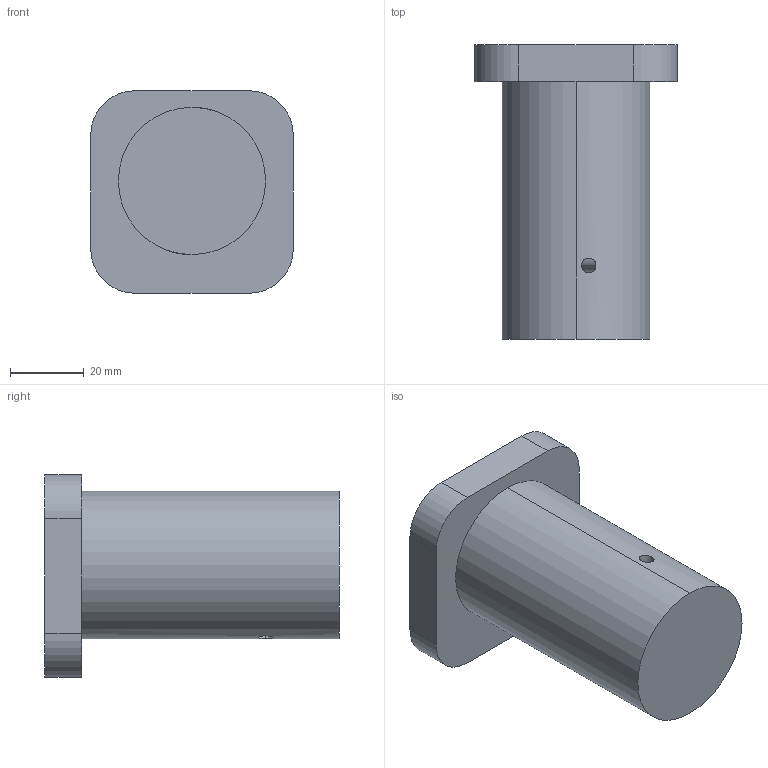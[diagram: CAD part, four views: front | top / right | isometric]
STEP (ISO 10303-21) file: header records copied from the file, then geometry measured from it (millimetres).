
FILE_DESCRIPTION (( 'STEP AP214' ), '1' );
FILE_NAME ('22.STEP', '2023-05-04T08:11:48', ( 'ay' ), ( '' ), 'SwSTEP 2.0', 'SolidWorks 2020', '' );
FILE_SCHEMA (( 'AUTOMOTIVE_DESIGN' ));
Length unit declared in the file: millimetre
Products named in the file (1): 22
Bounding box: 55 x 80 x 55 mm (x, y, z)
Volume: 116476.5 mm3; surface area: 17069.5 mm2
Topology: 1 solids, 1 shells, 15 faces, 36 edges, 24 vertices
Faces by surface type: cylinder 8, plane 7
Entity records: 580 total; most frequent: CARTESIAN_POINT 184, DIRECTION 76, ORIENTED_EDGE 72, EDGE_CURVE 36, AXIS2_PLACEMENT_3D 28, VERTEX_POINT 24, LINE 20, VECTOR 20
